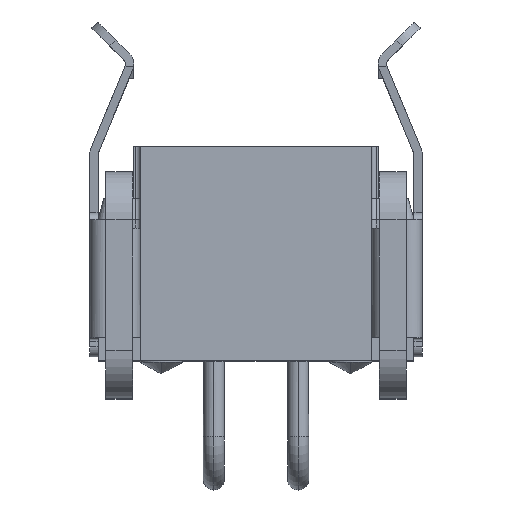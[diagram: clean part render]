
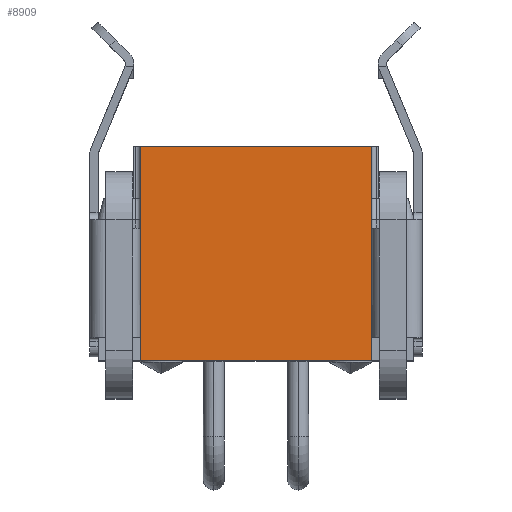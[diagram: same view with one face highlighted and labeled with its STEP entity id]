
A CAD part, top view. The second image highlights one B-rep face of the part: STEP entity #8909.
In plain terms, the highlighted planar face has unit normal (0, 0, 1).
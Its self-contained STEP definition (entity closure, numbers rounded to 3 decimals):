
#1279=EDGE_CURVE('',#3781,#3782,#3783,.T.);
#1287=EDGE_CURVE('',#3791,#3794,#3795,.T.);
#1321=EDGE_CURVE('',#3794,#3781,#3843,.T.);
#1471=EDGE_CURVE('',#4043,#4044,#4045,.T.);
#1571=EDGE_CURVE('',#3782,#4044,#4181,.T.);
#1803=EDGE_CURVE('',#3791,#4043,#4473,.T.);
#3781=VERTEX_POINT('',#7080);
#3782=VERTEX_POINT('',#7081);
#3783=LINE('',#7082,#7083);
#3791=VERTEX_POINT('',#7095);
#3794=VERTEX_POINT('',#7100);
#3795=LINE('',#7101,#7102);
#3843=LINE('',#7178,#7179);
#4043=VERTEX_POINT('',#7498);
#4044=VERTEX_POINT('',#7499);
#4045=LINE('',#7500,#7501);
#4181=LINE('',#7728,#7729);
#4473=LINE('',#8252,#8253);
#7080=CARTESIAN_POINT('',(-2.25,-1.95,2.775));
#7081=CARTESIAN_POINT('',(-2.75,-1.95,2.775));
#7082=CARTESIAN_POINT('',(-2.25,-1.95,2.775));
#7083=VECTOR('',#13753,0.5);
#7095=CARTESIAN_POINT('',(2.75,-1.95,2.775));
#7100=CARTESIAN_POINT('',(2.25,-1.95,2.775));
#7101=CARTESIAN_POINT('',(2.75,-1.95,2.775));
#7102=VECTOR('',#13759,0.5);
#7178=CARTESIAN_POINT('',(2.25,-1.95,2.775));
#7179=VECTOR('',#13786,4.5);
#7498=CARTESIAN_POINT('',(2.75,3.15,2.775));
#7499=CARTESIAN_POINT('',(-2.75,3.15,2.775));
#7500=CARTESIAN_POINT('',(2.75,3.15,2.775));
#7501=VECTOR('',#13921,5.5);
#7728=CARTESIAN_POINT('',(-2.75,-1.95,2.775));
#7729=VECTOR('',#13987,5.1);
#8252=CARTESIAN_POINT('',(2.75,-1.95,2.775));
#8253=VECTOR('',#14147,5.1);
#8909=ADVANCED_FACE('',(#14595),#14596,.T.);
#13753=DIRECTION('',(-1.0,0.0,0.0));
#13759=DIRECTION('',(-1.0,0.0,0.0));
#13786=DIRECTION('',(-1.0,0.0,0.0));
#13921=DIRECTION('',(-1.0,0.0,0.0));
#13987=DIRECTION('',(0.0,1.0,0.0));
#14147=DIRECTION('',(0.0,1.0,0.0));
#14595=FACE_OUTER_BOUND('',#16877,.T.);
#14596=PLANE('',#16878);
#16877=EDGE_LOOP('',(#19028,#19029,#19030,#19031,#19032,#19033));
#16878=AXIS2_PLACEMENT_3D('',#19034,#19035,#19036);
#19028=ORIENTED_EDGE('',*,*,#1803,.T.);
#19029=ORIENTED_EDGE('',*,*,#1471,.T.);
#19030=ORIENTED_EDGE('',*,*,#1571,.F.);
#19031=ORIENTED_EDGE('',*,*,#1279,.F.);
#19032=ORIENTED_EDGE('',*,*,#1321,.F.);
#19033=ORIENTED_EDGE('',*,*,#1287,.F.);
#19034=CARTESIAN_POINT('',(2.75,-1.95,2.775));
#19035=DIRECTION('',(0.0,0.0,1.0));
#19036=DIRECTION('',(-0.0,-1.0,0.0));
